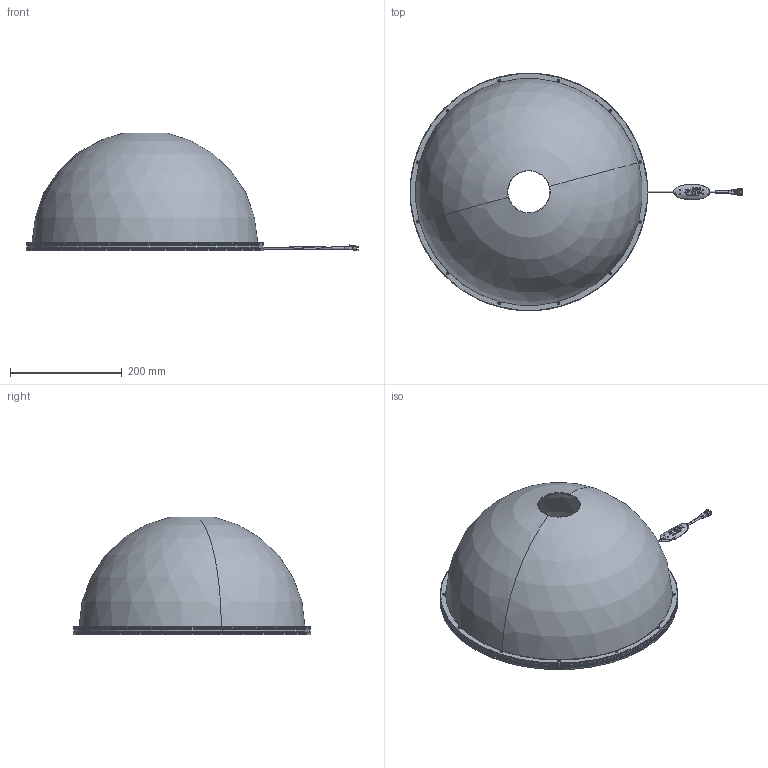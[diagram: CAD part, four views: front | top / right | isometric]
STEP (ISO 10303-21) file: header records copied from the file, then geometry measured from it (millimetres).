
FILE_DESCRIPTION(('STEP AP214'),'1');
FILE_NAME('VDO-425_DRAWING_3D.step','2023-09-12T10:43:27',(' '),(' '),'Spatial InterOp 3D',' ',' ');
FILE_SCHEMA(('AUTOMOTIVE_DESIGN { 1 0 10303 214 1 1 1 1 }'));
Length unit declared in the file: millimetre
Products named in the file (10): 3P; CABEL TAG (VS); REFLECTOR; DOME_425; BASE_425; R7M-1; INSULOK; OFA249A; MXB5485
Assembly tree (34 placements, depth 2):
  (unnamed)
    3P
    CABEL TAG (VS)
    REFLECTOR
    DOME_425
    BASE_425
    R7M-1
    INSULOK
    OFA249A  x15
    MXB5485  x12
Bounding box: 593.5 x 425 x 210.9 mm (x, y, z)
Volume: 1031687.9 mm3; surface area: 741139.8 mm2
Topology: 59 solids, 60 shells, 1199 faces, 3127 edges, 2110 vertices
Faces by surface type: plane 616, cylinder 393, torus 114, cone 66, bspline 6, sphere 4
Entity records: 27738 total; most frequent: CARTESIAN_POINT 5994, ORIENTED_EDGE 3562, DIRECTION 3271, EDGE_CURVE 1781, VERTEX_POINT 1260, AXIS2_PLACEMENT_3D 1183, LINE 905, VECTOR 905
